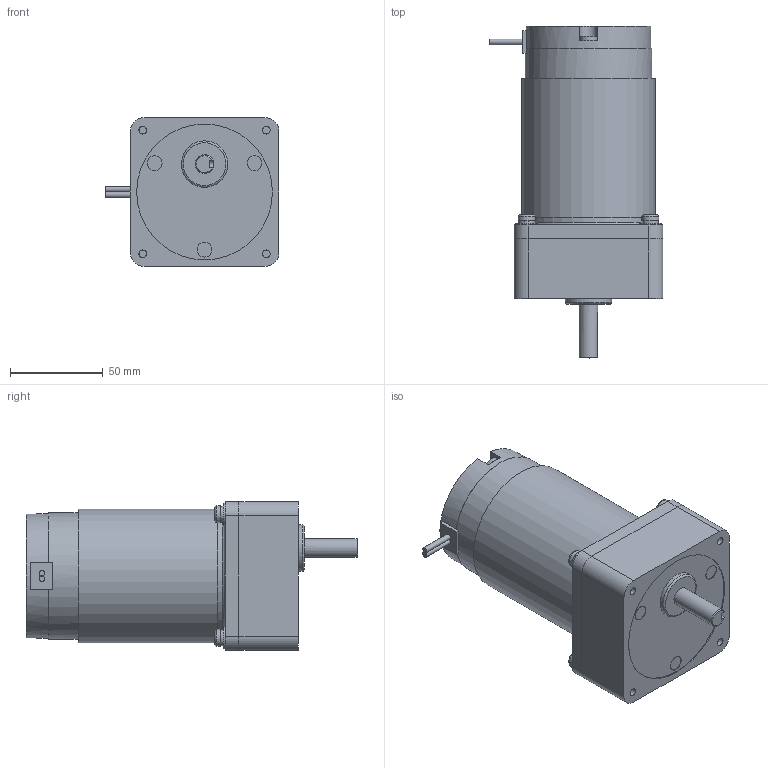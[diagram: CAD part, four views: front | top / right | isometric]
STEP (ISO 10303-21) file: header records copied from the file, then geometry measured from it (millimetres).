
FILE_DESCRIPTION((''),'2;1');
FILE_NAME('\\Servert1600\threepeace\2015homepage\STP\HP-Data_GM_3D_STEP\TP-72114A-DM-2.stp','2016-11-24T17:33:15',('Administrator'),(''),'Autodesk Inventor 2010','Autodesk Inventor 2010','');
FILE_SCHEMA(('AUTOMOTIVE_DESIGN { 1 0 10303 214 1 1 1 1 }'));
Length unit declared in the file: millimetre
Products named in the file (7): TP-72114A-DM-5～18-H00-24; DM-2-ギアヘッド単品(GMに付ける用); TP-72114A(GMに付ける用）; M5×30-WA000; _BOLTNSET5-30; _SPWASHNSET5-8; _WASHNSET5-8
Assembly tree (9 placements, depth 3):
  TP-72114A-DM-5～18-H00-24
    DM-2-ギアヘッド単品(GMに付ける用)
    TP-72114A(GMに付ける用）
    M5×30-WA000  x4
      _BOLTNSET5-30
      _SPWASHNSET5-8
      _WASHNSET5-8
Bounding box: 93.5 x 178.5 x 80 mm (x, y, z)
Volume: 664050.8 mm3; surface area: 74013 mm2
Topology: 15 solids, 15 shells, 286 faces, 632 edges, 411 vertices
Faces by surface type: plane 170, cylinder 81, bspline 17, cone 9, torus 5, sphere 4
Full cylindrical faces by diameter (mm): 2.5 x2, 3 x2, 4.509 x4, 5 x10, 7 x1, 7.62 x1, 8 x4, 9 x4, 10 x1, 12 x4, 16 x1, 22 x1, 25 x1, 67 x1, 68 x2, 73 x3
Entity records: 5239 total; most frequent: CARTESIAN_POINT 1110, DIRECTION 833, ORIENTED_EDGE 694, EDGE_CURVE 347, AXIS2_PLACEMENT_3D 317, EDGE_LOOP 268, VERTEX_POINT 251, VECTOR 199
